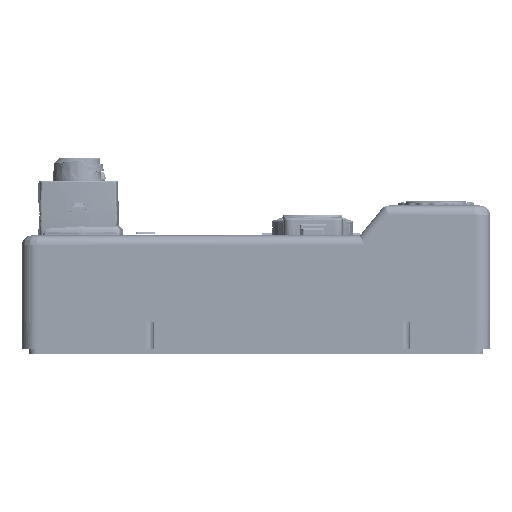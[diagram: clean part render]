
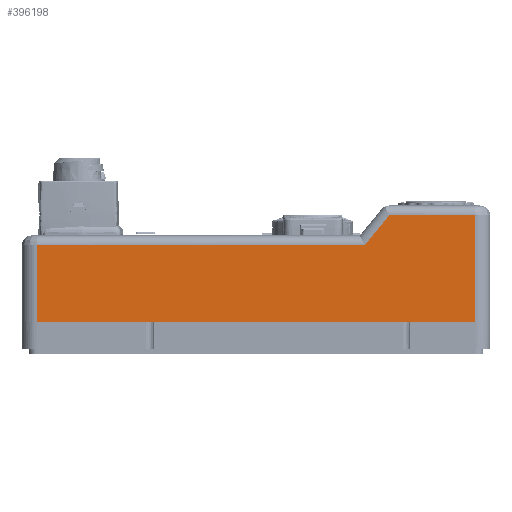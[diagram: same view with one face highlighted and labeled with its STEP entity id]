
A CAD part, front view. The second image highlights one B-rep face of the part: STEP entity #396198.
In plain terms, the highlighted planar face has unit normal (0, -1, 0).
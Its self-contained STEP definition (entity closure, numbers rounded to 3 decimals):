
#47924 = DIRECTION ( 'NONE',  ( 0., -1., 0. ) ) ;
#59301 = DIRECTION ( 'NONE',  ( 0., 0., 1. ) ) ;
#89689 = ORIENTED_EDGE ( 'NONE', *, *, #820717, .T. ) ;
#91520 = EDGE_CURVE ( 'NONE', #923756, #213509, #187485, .T. ) ;
#102905 = CARTESIAN_POINT ( 'NONE',  ( 458., 5., 108.4 ) ) ;
#109946 = LINE ( 'NONE', #980131, #349175 ) ;
#117099 = VERTEX_POINT ( 'NONE', #102905 ) ;
#117443 = VERTEX_POINT ( 'NONE', #343542 ) ;
#157437 = CARTESIAN_POINT ( 'NONE',  ( 370.728, 5., 108.4 ) ) ;
#173769 = VERTEX_POINT ( 'NONE', #579097 ) ;
#187485 = LINE ( 'NONE', #347919, #642099 ) ;
#187616 = EDGE_CURVE ( 'NONE', #117099, #223062, #294801, .T. ) ;
#213509 = VERTEX_POINT ( 'NONE', #285939 ) ;
#223062 = VERTEX_POINT ( 'NONE', #622266 ) ;
#270530 = PLANE ( 'NONE',  #756178 ) ;
#285939 = CARTESIAN_POINT ( 'NONE',  ( 13., 5., 78. ) ) ;
#294801 = LINE ( 'NONE', #781454, #594667 ) ;
#343542 = CARTESIAN_POINT ( 'NONE',  ( 458., 5., 0. ) ) ;
#347919 = CARTESIAN_POINT ( 'NONE',  ( 345.728, 5., 78. ) ) ;
#349175 = VECTOR ( 'NONE', #838524, 1000. ) ;
#396198 = ADVANCED_FACE ( 'NONE', ( #431005 ), #270530, .T. ) ;
#419497 = CARTESIAN_POINT ( 'NONE',  ( 13., 5., 0. ) ) ;
#430667 = DIRECTION ( 'NONE',  ( -1., 0., 0. ) ) ;
#431005 = FACE_OUTER_BOUND ( 'NONE', #782005, .T. ) ;
#463116 = DIRECTION ( 'NONE',  ( -0.635, 0., -0.772 ) ) ;
#519003 = CARTESIAN_POINT ( 'NONE',  ( 13., 5., 78. ) ) ;
#524157 = ORIENTED_EDGE ( 'NONE', *, *, #575410, .T. ) ;
#543599 = EDGE_CURVE ( 'NONE', #173769, #117443, #569829, .T. ) ;
#569829 = LINE ( 'NONE', #419497, #944154 ) ;
#574242 = EDGE_CURVE ( 'NONE', #213509, #173769, #109946, .T. ) ;
#575410 = EDGE_CURVE ( 'NONE', #117443, #117099, #773734, .T. ) ;
#579097 = CARTESIAN_POINT ( 'NONE',  ( 13., 5., 0. ) ) ;
#594667 = VECTOR ( 'NONE', #766215, 1000. ) ;
#622266 = CARTESIAN_POINT ( 'NONE',  ( 370.728, 5., 108.4 ) ) ;
#642099 = VECTOR ( 'NONE', #430667, 1000. ) ;
#695583 = VECTOR ( 'NONE', #463116, 1000. ) ;
#736910 = DIRECTION ( 'NONE',  ( 0., 0., -1. ) ) ;
#756178 = AXIS2_PLACEMENT_3D ( 'NONE', #519003, #47924, #736910 ) ;
#766215 = DIRECTION ( 'NONE',  ( -1., 0., 0. ) ) ;
#773734 = LINE ( 'NONE', #939499, #894881 ) ;
#781454 = CARTESIAN_POINT ( 'NONE',  ( 13., 5., 108.4 ) ) ;
#782005 = EDGE_LOOP ( 'NONE', ( #89689, #902755, #829156, #996916, #524157, #845060 ) ) ;
#820717 = EDGE_CURVE ( 'NONE', #223062, #923756, #866882, .T. ) ;
#829156 = ORIENTED_EDGE ( 'NONE', *, *, #574242, .T. ) ;
#838524 = DIRECTION ( 'NONE',  ( 0., 0., -1. ) ) ;
#845060 = ORIENTED_EDGE ( 'NONE', *, *, #187616, .T. ) ;
#866882 = LINE ( 'NONE', #157437, #695583 ) ;
#890224 = CARTESIAN_POINT ( 'NONE',  ( 345.728, 5., 78. ) ) ;
#894881 = VECTOR ( 'NONE', #59301, 1000. ) ;
#902755 = ORIENTED_EDGE ( 'NONE', *, *, #91520, .T. ) ;
#923756 = VERTEX_POINT ( 'NONE', #890224 ) ;
#939499 = CARTESIAN_POINT ( 'NONE',  ( 458., 5., 78. ) ) ;
#944154 = VECTOR ( 'NONE', #984092, 1000. ) ;
#980131 = CARTESIAN_POINT ( 'NONE',  ( 13., 5., 78. ) ) ;
#984092 = DIRECTION ( 'NONE',  ( 1., 0., 0. ) ) ;
#996916 = ORIENTED_EDGE ( 'NONE', *, *, #543599, .T. ) ;
